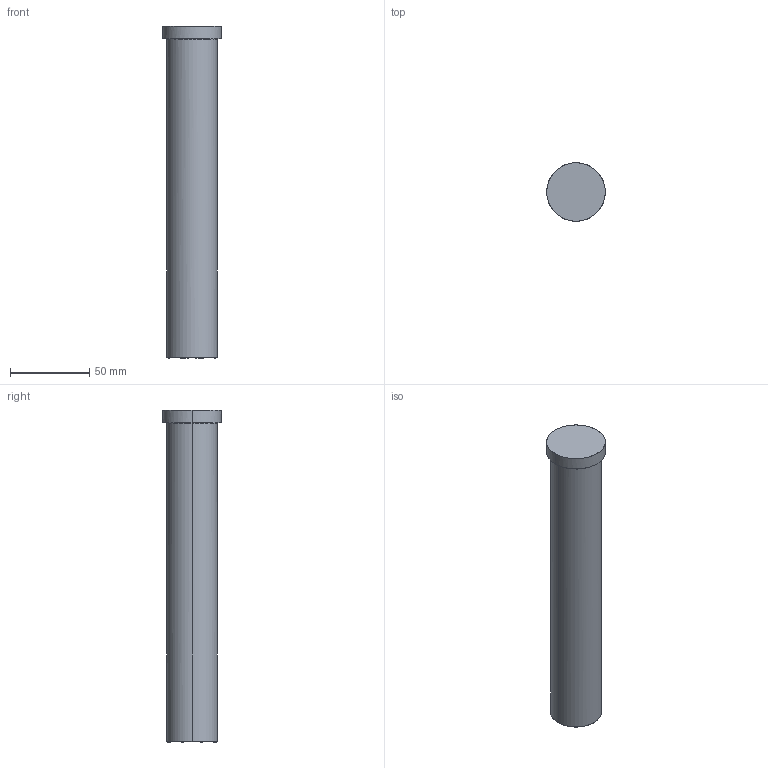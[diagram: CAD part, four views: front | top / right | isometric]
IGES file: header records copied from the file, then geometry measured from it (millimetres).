
Global section: file name: E:\UnigraphicsGraphicData\MISUMI_PRESS-PARTS\IGES\3d_hcup32-210_01343_r00.igs; native system: NX V5.0; preprocessor: UGS NX IGES V5.0; author: MISUMI; date: 20110105.160934; units: millimetre
Bounding box: 37 x 37 x 210 mm (x, y, z)
Surface area: 23336.7 mm2 (no closed solid volume)
Topology: 0 solids, 0 shells, 11 faces, 96 edges, 96 vertices
Faces by surface type: bspline 11
